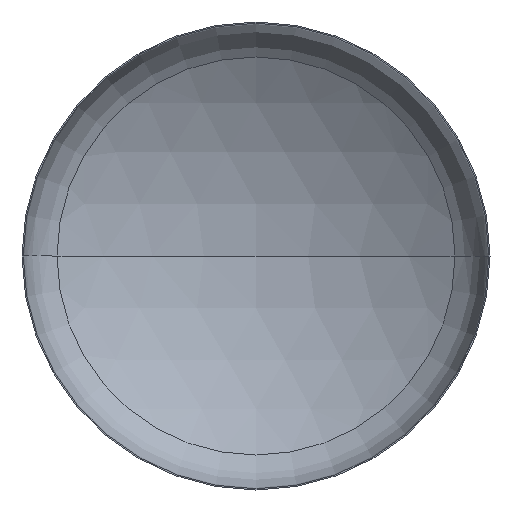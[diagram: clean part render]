
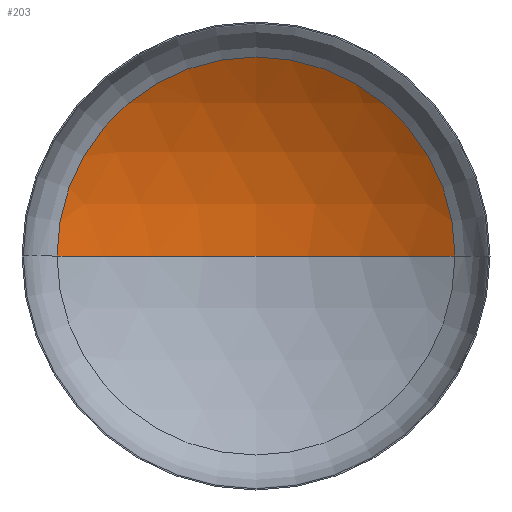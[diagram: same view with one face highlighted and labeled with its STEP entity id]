
A CAD part, front view. The second image highlights one B-rep face of the part: STEP entity #203.
In plain terms, the highlighted spherical face has radius 4000 mm.
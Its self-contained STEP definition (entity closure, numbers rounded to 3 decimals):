
#5 = CARTESIAN_POINT ( 'NONE',  ( 0., -2695.838, 0. ) ) ;
#11 = EDGE_LOOP ( 'NONE', ( #167, #61, #141 ) ) ;
#17 = DIRECTION ( 'NONE',  ( 1., 0., 0. ) ) ;
#27 = AXIS2_PLACEMENT_3D ( 'NONE', #257, #185, #17 ) ;
#37 = AXIS2_PLACEMENT_3D ( 'NONE', #280, #107, #231 ) ;
#45 = AXIS2_PLACEMENT_3D ( 'NONE', #209, #373, #376 ) ;
#61 = ORIENTED_EDGE ( 'NONE', *, *, #344, .T. ) ;
#66 = VERTEX_POINT ( 'NONE', #247 ) ;
#74 = VERTEX_POINT ( 'NONE', #232 ) ;
#81 = AXIS2_PLACEMENT_3D ( 'NONE', #5, #154, #391 ) ;
#87 = VERTEX_POINT ( 'NONE', #230 ) ;
#107 = DIRECTION ( 'NONE',  ( 0., 0., -1. ) ) ;
#109 = SPHERICAL_SURFACE ( 'NONE', #81, 4000. ) ;
#141 = ORIENTED_EDGE ( 'NONE', *, *, #337, .T. ) ;
#154 = DIRECTION ( 'NONE',  ( 0., 0., -1. ) ) ;
#167 = ORIENTED_EDGE ( 'NONE', *, *, #346, .F. ) ;
#185 = DIRECTION ( 'NONE',  ( 0., 0., 1. ) ) ;
#203 = ADVANCED_FACE ( 'NONE', ( #258 ), #109, .F. ) ;
#209 = CARTESIAN_POINT ( 'NONE',  ( 0., 692.197, 0. ) ) ;
#223 = CIRCLE ( 'NONE', #27, 4000. ) ;
#230 = CARTESIAN_POINT ( 'NONE',  ( 2126.316, 692.197, 0. ) ) ;
#231 = DIRECTION ( 'NONE',  ( -1., 0., 0. ) ) ;
#232 = CARTESIAN_POINT ( 'NONE',  ( 0., 1304.162, 0. ) ) ;
#247 = CARTESIAN_POINT ( 'NONE',  ( -2126.316, 692.197, 0. ) ) ;
#257 = CARTESIAN_POINT ( 'NONE',  ( 0., -2695.838, 0. ) ) ;
#258 = FACE_OUTER_BOUND ( 'NONE', #11, .T. ) ;
#280 = CARTESIAN_POINT ( 'NONE',  ( 0., -2695.838, 0. ) ) ;
#300 = CIRCLE ( 'NONE', #37, 4000. ) ;
#337 = EDGE_CURVE ( 'NONE', #87, #66, #354, .T. ) ;
#344 = EDGE_CURVE ( 'NONE', #74, #87, #300, .T. ) ;
#346 = EDGE_CURVE ( 'NONE', #74, #66, #223, .T. ) ;
#354 = CIRCLE ( 'NONE', #45, 2126.316 ) ;
#373 = DIRECTION ( 'NONE',  ( 0., -1., 0. ) ) ;
#376 = DIRECTION ( 'NONE',  ( 1., 0., 0. ) ) ;
#391 = DIRECTION ( 'NONE',  ( -1., 0., 0. ) ) ;
